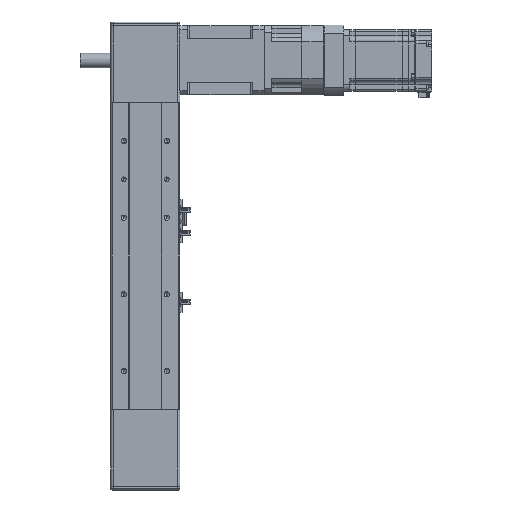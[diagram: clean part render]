
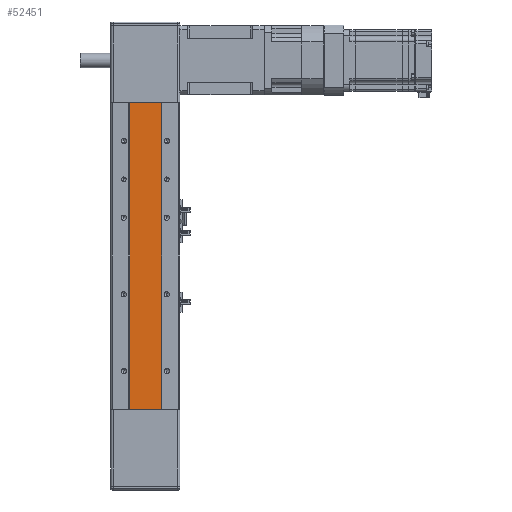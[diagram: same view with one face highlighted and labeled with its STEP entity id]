
A CAD part, front view. The second image highlights one B-rep face of the part: STEP entity #52451.
In plain terms, the highlighted planar face has unit normal (0, -1, 0).
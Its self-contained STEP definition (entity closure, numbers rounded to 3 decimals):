
#4901 = ORIENTED_EDGE ( 'NONE', *, *, #69817, .F. ) ;
#4914 = ORIENTED_EDGE ( 'NONE', *, *, #69840, .F. ) ;
#4930 = ORIENTED_EDGE ( 'NONE', *, *, #69859, .T. ) ;
#5013 = ORIENTED_EDGE ( 'NONE', *, *, #69803, .T. ) ;
#12530 = CARTESIAN_POINT ( 'NONE',  ( -20.5, -60.599, -200. ) ) ;
#12547 = CARTESIAN_POINT ( 'NONE',  ( 20.5, -60.599, -200. ) ) ;
#12575 = CARTESIAN_POINT ( 'NONE',  ( -20.5, -60.599, 200. ) ) ;
#12586 = CARTESIAN_POINT ( 'NONE',  ( 20.5, -60.599, 200. ) ) ;
#18308 = CARTESIAN_POINT ( 'NONE',  ( -20.5, -60.599, 200. ) ) ;
#18319 = DIRECTION ( 'NONE',  ( 0., 0., -1. ) ) ;
#18346 = CARTESIAN_POINT ( 'NONE',  ( 20.5, -60.599, 200. ) ) ;
#18347 = DIRECTION ( 'NONE',  ( 0., 0., -1. ) ) ;
#18434 = DIRECTION ( 'NONE',  ( 1., 0., 0. ) ) ;
#18449 = CARTESIAN_POINT ( 'NONE',  ( 0., -60.599, 200. ) ) ;
#18541 = DIRECTION ( 'NONE',  ( 1., 0., 0. ) ) ;
#18592 = CARTESIAN_POINT ( 'NONE',  ( 0., -60.599, -200. ) ) ;
#20379 = LINE ( 'NONE', #18308, #20446 ) ;
#20431 = LINE ( 'NONE', #18346, #20437 ) ;
#20437 = VECTOR ( 'NONE', #18347, 1000. ) ;
#20446 = VECTOR ( 'NONE', #18319, 1000. ) ;
#20514 = LINE ( 'NONE', #18592, #20534 ) ;
#20515 = VECTOR ( 'NONE', #18434, 1000. ) ;
#20530 = LINE ( 'NONE', #18449, #20515 ) ;
#20534 = VECTOR ( 'NONE', #18541, 1000. ) ;
#22089 = AXIS2_PLACEMENT_3D ( 'NONE', #39859, #39878, #39875 ) ;
#36679 = FACE_OUTER_BOUND ( 'NONE', #66836, .T. ) ;
#39839 = PLANE ( 'NONE',  #22089 ) ;
#39859 = CARTESIAN_POINT ( 'NONE',  ( 0., -60.599, 200. ) ) ;
#39875 = DIRECTION ( 'NONE',  ( 0., 0., 1. ) ) ;
#39878 = DIRECTION ( 'NONE',  ( 0., 1., 0. ) ) ;
#52451 = ADVANCED_FACE ( 'NONE', ( #36679 ), #39839, .F. ) ;
#62726 = VERTEX_POINT ( 'NONE', #12530 ) ;
#62736 = VERTEX_POINT ( 'NONE', #12586 ) ;
#62765 = VERTEX_POINT ( 'NONE', #12547 ) ;
#62778 = VERTEX_POINT ( 'NONE', #12575 ) ;
#66836 = EDGE_LOOP ( 'NONE', ( #4930, #4901, #4914, #5013 ) ) ;
#69803 = EDGE_CURVE ( 'NONE', #62778, #62726, #20379, .T. ) ;
#69817 = EDGE_CURVE ( 'NONE', #62736, #62765, #20431, .T. ) ;
#69840 = EDGE_CURVE ( 'NONE', #62778, #62736, #20530, .T. ) ;
#69859 = EDGE_CURVE ( 'NONE', #62726, #62765, #20514, .T. ) ;
